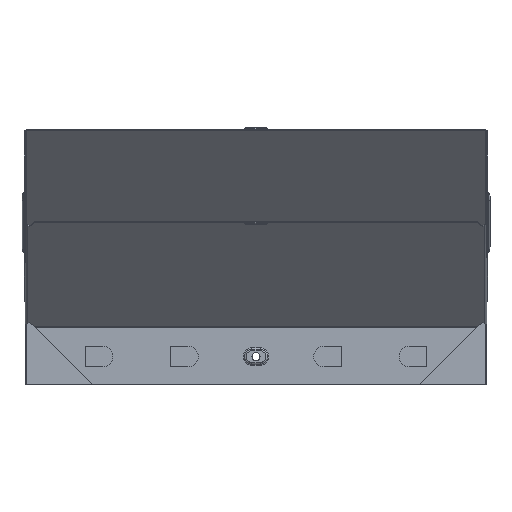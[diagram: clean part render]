
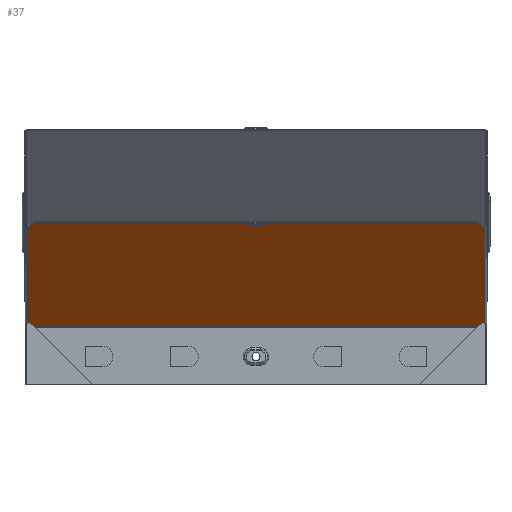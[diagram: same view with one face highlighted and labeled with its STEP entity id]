
A CAD part, top view. The second image highlights one B-rep face of the part: STEP entity #37.
In plain terms, the highlighted planar face has unit normal (0, -0.707, 0.707).
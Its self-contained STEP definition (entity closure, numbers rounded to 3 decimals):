
#15 = LINE ( 'NONE', #7394, #9166 ) ;
#19 = ORIENTED_EDGE ( 'NONE', *, *, #2826, .T. ) ;
#37 = ADVANCED_FACE ( 'NONE', ( #8167 ), #7908, .F. ) ;
#56 = DIRECTION ( 'NONE',  ( 0., 0.707, -0.707 ) ) ;
#113 = DIRECTION ( 'NONE',  ( -1., 0., 0. ) ) ;
#145 = CARTESIAN_POINT ( 'NONE',  ( -198.2, -17.724, -67.724 ) ) ;
#318 = CARTESIAN_POINT ( 'NONE',  ( -196.592, -16.588, -66.588 ) ) ;
#368 = VERTEX_POINT ( 'NONE', #4997 ) ;
#391 = CARTESIAN_POINT ( 'NONE',  ( 196.592, -16.588, -66.588 ) ) ;
#431 = VECTOR ( 'NONE', #2579, 1000. ) ;
#553 = EDGE_CURVE ( 'NONE', #1317, #4281, #6674, .T. ) ;
#641 = DIRECTION ( 'NONE',  ( -0.707, -0.5, -0.5 ) ) ;
#969 = CARTESIAN_POINT ( 'NONE',  ( 196.592, 66.588, 16.588 ) ) ;
#1086 = VECTOR ( 'NONE', #7463, 1000. ) ;
#1222 = CARTESIAN_POINT ( 'NONE',  ( -198.2, 67.724, 17.724 ) ) ;
#1317 = VERTEX_POINT ( 'NONE', #3104 ) ;
#1432 = VERTEX_POINT ( 'NONE', #4659 ) ;
#1516 = ORIENTED_EDGE ( 'NONE', *, *, #3910, .T. ) ;
#1528 = DIRECTION ( 'NONE',  ( 0.707, 0.5, 0.5 ) ) ;
#1541 = ORIENTED_EDGE ( 'NONE', *, *, #6872, .T. ) ;
#1569 = VECTOR ( 'NONE', #113, 1000. ) ;
#1683 = VERTEX_POINT ( 'NONE', #4435 ) ;
#1814 = CARTESIAN_POINT ( 'NONE',  ( -200.299, 69.208, 19.208 ) ) ;
#1821 = DIRECTION ( 'NONE',  ( 0.707, -0.5, -0.5 ) ) ;
#1901 = CARTESIAN_POINT ( 'NONE',  ( -198.2, 70., 20. ) ) ;
#1923 = LINE ( 'NONE', #5580, #7490 ) ;
#1946 = ORIENTED_EDGE ( 'NONE', *, *, #4674, .T. ) ;
#2061 = EDGE_CURVE ( 'NONE', #5628, #9243, #6059, .T. ) ;
#2231 = ORIENTED_EDGE ( 'NONE', *, *, #4021, .T. ) ;
#2353 = AXIS2_PLACEMENT_3D ( 'NONE', #4369, #56, #7052 ) ;
#2579 = DIRECTION ( 'NONE',  ( -0.707, 0.5, 0.5 ) ) ;
#2702 = ORIENTED_EDGE ( 'NONE', *, *, #2061, .T. ) ;
#2722 = CARTESIAN_POINT ( 'NONE',  ( 200.299, 69.208, 19.208 ) ) ;
#2826 = EDGE_CURVE ( 'NONE', #368, #8244, #6569, .T. ) ;
#2841 = EDGE_CURVE ( 'NONE', #9213, #8416, #9251, .T. ) ;
#3104 = CARTESIAN_POINT ( 'NONE',  ( 192.181, 69.707, 19.707 ) ) ;
#3441 = LINE ( 'NONE', #5364, #1086 ) ;
#3487 = DIRECTION ( 'NONE',  ( 0.707, 0.5, 0.5 ) ) ;
#3535 = ORIENTED_EDGE ( 'NONE', *, *, #5664, .F. ) ;
#3568 = CARTESIAN_POINT ( 'NONE',  ( 141.546, 105.512, 55.512 ) ) ;
#3889 = CARTESIAN_POINT ( 'NONE',  ( 192.181, -19.707, -69.707 ) ) ;
#3910 = EDGE_CURVE ( 'NONE', #1683, #4425, #8353, .T. ) ;
#4021 = EDGE_CURVE ( 'NONE', #4425, #1317, #7112, .T. ) ;
#4022 = VECTOR ( 'NONE', #6961, 1000. ) ;
#4046 = ORIENTED_EDGE ( 'NONE', *, *, #9218, .T. ) ;
#4192 = DIRECTION ( 'NONE',  ( -0.707, -0.5, -0.5 ) ) ;
#4210 = ORIENTED_EDGE ( 'NONE', *, *, #553, .T. ) ;
#4215 = VECTOR ( 'NONE', #3487, 1000. ) ;
#4281 = VERTEX_POINT ( 'NONE', #5540 ) ;
#4369 = CARTESIAN_POINT ( 'NONE',  ( 198.2, 70., 20. ) ) ;
#4411 = DIRECTION ( 'NONE',  ( -0.707, 0.5, 0.5 ) ) ;
#4425 = VERTEX_POINT ( 'NONE', #969 ) ;
#4435 = CARTESIAN_POINT ( 'NONE',  ( 198.2, 67.724, 17.724 ) ) ;
#4584 = EDGE_LOOP ( 'NONE', ( #1516, #2231, #4210, #8387, #19, #8154, #2702, #1541, #6467, #1946, #4046, #3535 ) ) ;
#4619 = EDGE_CURVE ( 'NONE', #8244, #5628, #9202, .T. ) ;
#4659 = CARTESIAN_POINT ( 'NONE',  ( 198.2, -17.724, -67.724 ) ) ;
#4674 = EDGE_CURVE ( 'NONE', #9213, #8781, #5473, .T. ) ;
#4917 = VECTOR ( 'NONE', #1528, 1000. ) ;
#4997 = CARTESIAN_POINT ( 'NONE',  ( -196.592, 66.588, 16.588 ) ) ;
#5025 = CARTESIAN_POINT ( 'NONE',  ( -192.181, -19.707, -69.707 ) ) ;
#5079 = CARTESIAN_POINT ( 'NONE',  ( -200.299, -19.208, -69.208 ) ) ;
#5364 = CARTESIAN_POINT ( 'NONE',  ( 200.299, -19.208, -69.208 ) ) ;
#5400 = DIRECTION ( 'NONE',  ( 0., -0.707, -0.707 ) ) ;
#5473 = LINE ( 'NONE', #8491, #4215 ) ;
#5540 = CARTESIAN_POINT ( 'NONE',  ( -192.181, 69.707, 19.707 ) ) ;
#5580 = CARTESIAN_POINT ( 'NONE',  ( -141.546, 105.512, 55.512 ) ) ;
#5628 = VERTEX_POINT ( 'NONE', #145 ) ;
#5664 = EDGE_CURVE ( 'NONE', #1683, #1432, #8208, .T. ) ;
#5816 = DIRECTION ( 'NONE',  ( 0., -0.707, -0.707 ) ) ;
#6059 = LINE ( 'NONE', #5079, #4917 ) ;
#6173 = VECTOR ( 'NONE', #5400, 1000. ) ;
#6467 = ORIENTED_EDGE ( 'NONE', *, *, #2841, .F. ) ;
#6569 = LINE ( 'NONE', #1814, #431 ) ;
#6674 = LINE ( 'NONE', #8794, #1569 ) ;
#6872 = EDGE_CURVE ( 'NONE', #9243, #8416, #15, .T. ) ;
#6961 = DIRECTION ( 'NONE',  ( -1., 0., 0. ) ) ;
#7052 = DIRECTION ( 'NONE',  ( 0., 0.707, 0.707 ) ) ;
#7108 = CARTESIAN_POINT ( 'NONE',  ( 198.2, 70., 20. ) ) ;
#7112 = LINE ( 'NONE', #3568, #8026 ) ;
#7394 = CARTESIAN_POINT ( 'NONE',  ( -141.546, -55.512, -105.512 ) ) ;
#7426 = VECTOR ( 'NONE', #5816, 1000. ) ;
#7463 = DIRECTION ( 'NONE',  ( 0.707, -0.5, -0.5 ) ) ;
#7490 = VECTOR ( 'NONE', #4192, 1000. ) ;
#7908 = PLANE ( 'NONE',  #2353 ) ;
#8026 = VECTOR ( 'NONE', #4411, 1000. ) ;
#8154 = ORIENTED_EDGE ( 'NONE', *, *, #4619, .T. ) ;
#8167 = FACE_OUTER_BOUND ( 'NONE', #4584, .T. ) ;
#8208 = LINE ( 'NONE', #7108, #7426 ) ;
#8242 = EDGE_CURVE ( 'NONE', #4281, #368, #1923, .T. ) ;
#8244 = VERTEX_POINT ( 'NONE', #1222 ) ;
#8314 = CARTESIAN_POINT ( 'NONE',  ( 198.2, -19.707, -69.707 ) ) ;
#8353 = LINE ( 'NONE', #2722, #9333 ) ;
#8387 = ORIENTED_EDGE ( 'NONE', *, *, #8242, .T. ) ;
#8416 = VERTEX_POINT ( 'NONE', #5025 ) ;
#8491 = CARTESIAN_POINT ( 'NONE',  ( 141.546, -55.512, -105.512 ) ) ;
#8781 = VERTEX_POINT ( 'NONE', #391 ) ;
#8794 = CARTESIAN_POINT ( 'NONE',  ( 198.2, 69.707, 19.707 ) ) ;
#9166 = VECTOR ( 'NONE', #1821, 1000. ) ;
#9202 = LINE ( 'NONE', #1901, #6173 ) ;
#9213 = VERTEX_POINT ( 'NONE', #3889 ) ;
#9218 = EDGE_CURVE ( 'NONE', #8781, #1432, #3441, .T. ) ;
#9243 = VERTEX_POINT ( 'NONE', #318 ) ;
#9251 = LINE ( 'NONE', #8314, #4022 ) ;
#9333 = VECTOR ( 'NONE', #641, 1000. ) ;
